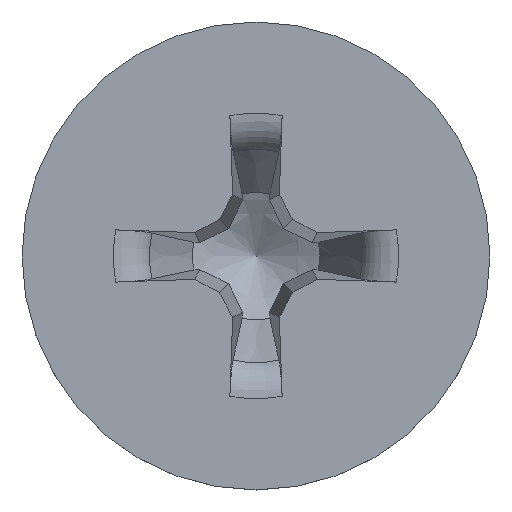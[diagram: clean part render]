
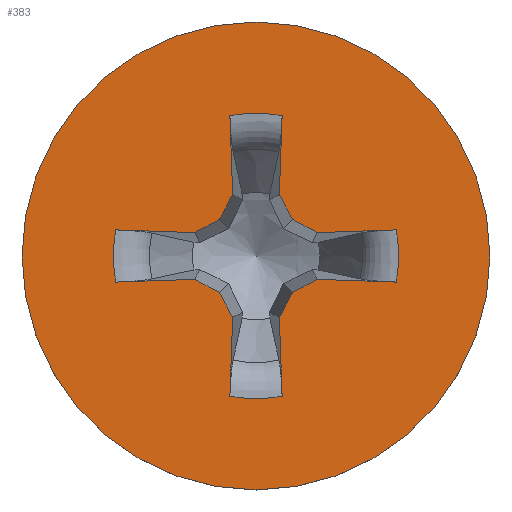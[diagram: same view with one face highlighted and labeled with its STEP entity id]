
A CAD part, top view. The second image highlights one B-rep face of the part: STEP entity #383.
In plain terms, the highlighted planar face has unit normal (0, 0, 1).
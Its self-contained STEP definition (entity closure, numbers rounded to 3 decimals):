
#120=LINE('',#4226,#228);
#121=LINE('',#4231,#229);
#122=LINE('',#4233,#230);
#123=LINE('',#4235,#231);
#124=LINE('',#4237,#232);
#125=LINE('',#4241,#233);
#126=LINE('',#4243,#234);
#127=LINE('',#4245,#235);
#128=LINE('',#4247,#236);
#129=LINE('',#4251,#237);
#130=LINE('',#4253,#238);
#131=LINE('',#4255,#239);
#132=LINE('',#4257,#240);
#133=LINE('',#4261,#241);
#134=LINE('',#4263,#242);
#135=LINE('',#4265,#243);
#228=VECTOR('',#1993,1.);
#229=VECTOR('',#1996,1.);
#230=VECTOR('',#1997,1.);
#231=VECTOR('',#1998,1.);
#232=VECTOR('',#1999,1.);
#233=VECTOR('',#2002,1.);
#234=VECTOR('',#2003,1.);
#235=VECTOR('',#2004,1.);
#236=VECTOR('',#2005,1.);
#237=VECTOR('',#2008,1.);
#238=VECTOR('',#2009,1.);
#239=VECTOR('',#2010,1.);
#240=VECTOR('',#2011,1.);
#241=VECTOR('',#2014,1.);
#242=VECTOR('',#2015,1.);
#243=VECTOR('',#2016,1.);
#337=PLANE('',#1928);
#364=FACE_BOUND('',#626,.T.);
#365=FACE_BOUND('',#627,.T.);
#383=ADVANCED_FACE('',(#364,#365),#337,.F.);
#626=EDGE_LOOP('',(#951,#952,#953,#954,#955,#956,#957,#958,#959,#960,#961,
#962,#963,#964,#965,#966,#967,#968,#969,#970));
#627=EDGE_LOOP('',(#971));
#951=ORIENTED_EDGE('',*,*,#1666,.F.);
#952=ORIENTED_EDGE('',*,*,#1667,.T.);
#953=ORIENTED_EDGE('',*,*,#1668,.F.);
#954=ORIENTED_EDGE('',*,*,#1669,.F.);
#955=ORIENTED_EDGE('',*,*,#1670,.F.);
#956=ORIENTED_EDGE('',*,*,#1671,.F.);
#957=ORIENTED_EDGE('',*,*,#1672,.T.);
#958=ORIENTED_EDGE('',*,*,#1673,.F.);
#959=ORIENTED_EDGE('',*,*,#1674,.F.);
#960=ORIENTED_EDGE('',*,*,#1675,.F.);
#961=ORIENTED_EDGE('',*,*,#1676,.F.);
#962=ORIENTED_EDGE('',*,*,#1677,.T.);
#963=ORIENTED_EDGE('',*,*,#1678,.F.);
#964=ORIENTED_EDGE('',*,*,#1679,.F.);
#965=ORIENTED_EDGE('',*,*,#1680,.F.);
#966=ORIENTED_EDGE('',*,*,#1681,.F.);
#967=ORIENTED_EDGE('',*,*,#1682,.T.);
#968=ORIENTED_EDGE('',*,*,#1683,.F.);
#969=ORIENTED_EDGE('',*,*,#1684,.F.);
#970=ORIENTED_EDGE('',*,*,#1685,.F.);
#971=ORIENTED_EDGE('',*,*,#1686,.F.);
#1496=VERTEX_POINT('',#4227);
#1497=VERTEX_POINT('',#4228);
#1498=VERTEX_POINT('',#4230);
#1499=VERTEX_POINT('',#4232);
#1500=VERTEX_POINT('',#4234);
#1501=VERTEX_POINT('',#4236);
#1502=VERTEX_POINT('',#4238);
#1503=VERTEX_POINT('',#4240);
#1504=VERTEX_POINT('',#4242);
#1505=VERTEX_POINT('',#4244);
#1506=VERTEX_POINT('',#4246);
#1507=VERTEX_POINT('',#4248);
#1508=VERTEX_POINT('',#4250);
#1509=VERTEX_POINT('',#4252);
#1510=VERTEX_POINT('',#4254);
#1511=VERTEX_POINT('',#4256);
#1512=VERTEX_POINT('',#4258);
#1513=VERTEX_POINT('',#4260);
#1514=VERTEX_POINT('',#4262);
#1515=VERTEX_POINT('',#4264);
#1516=VERTEX_POINT('',#4267);
#1666=EDGE_CURVE('',#1496,#1497,#120,.T.);
#1667=EDGE_CURVE('',#1496,#1498,#1895,.T.);
#1668=EDGE_CURVE('',#1499,#1498,#121,.T.);
#1669=EDGE_CURVE('',#1500,#1499,#122,.T.);
#1670=EDGE_CURVE('',#1501,#1500,#123,.T.);
#1671=EDGE_CURVE('',#1502,#1501,#124,.T.);
#1672=EDGE_CURVE('',#1502,#1503,#1896,.T.);
#1673=EDGE_CURVE('',#1504,#1503,#125,.T.);
#1674=EDGE_CURVE('',#1505,#1504,#126,.T.);
#1675=EDGE_CURVE('',#1506,#1505,#127,.T.);
#1676=EDGE_CURVE('',#1507,#1506,#128,.T.);
#1677=EDGE_CURVE('',#1507,#1508,#1897,.T.);
#1678=EDGE_CURVE('',#1509,#1508,#129,.T.);
#1679=EDGE_CURVE('',#1510,#1509,#130,.T.);
#1680=EDGE_CURVE('',#1511,#1510,#131,.T.);
#1681=EDGE_CURVE('',#1512,#1511,#132,.T.);
#1682=EDGE_CURVE('',#1512,#1513,#1898,.T.);
#1683=EDGE_CURVE('',#1514,#1513,#133,.T.);
#1684=EDGE_CURVE('',#1515,#1514,#134,.T.);
#1685=EDGE_CURVE('',#1497,#1515,#135,.T.);
#1686=EDGE_CURVE('',#1516,#1516,#1899,.T.);
#1895=CIRCLE('',#1923,4.271);
#1896=CIRCLE('',#1924,4.271);
#1897=CIRCLE('',#1925,4.271);
#1898=CIRCLE('',#1926,4.271);
#1899=CIRCLE('',#1927,7.);
#1923=AXIS2_PLACEMENT_3D('',#4229,#1994,#1995);
#1924=AXIS2_PLACEMENT_3D('',#4239,#2000,#2001);
#1925=AXIS2_PLACEMENT_3D('',#4249,#2006,#2007);
#1926=AXIS2_PLACEMENT_3D('',#4259,#2012,#2013);
#1927=AXIS2_PLACEMENT_3D('',#4266,#2017,#2018);
#1928=AXIS2_PLACEMENT_3D('',#4268,#2019,#2020);
#1993=DIRECTION('',(-0.999,-0.035,0.));
#1994=DIRECTION('',(0.,0.,-1.));
#1995=DIRECTION('',(-1.,0.,0.));
#1996=DIRECTION('',(0.999,-0.035,0.));
#1997=DIRECTION('',(0.883,0.469,0.));
#1998=DIRECTION('',(0.469,0.883,0.));
#1999=DIRECTION('',(-0.035,0.999,0.));
#2000=DIRECTION('',(0.,0.,-1.));
#2001=DIRECTION('',(-1.,0.,0.));
#2002=DIRECTION('',(-0.035,-0.999,0.));
#2003=DIRECTION('',(0.469,-0.883,0.));
#2004=DIRECTION('',(0.883,-0.469,0.));
#2005=DIRECTION('',(0.999,0.035,0.));
#2006=DIRECTION('',(0.,0.,-1.));
#2007=DIRECTION('',(-1.,0.,0.));
#2008=DIRECTION('',(-0.999,0.035,0.));
#2009=DIRECTION('',(-0.883,-0.469,0.));
#2010=DIRECTION('',(-0.469,-0.883,0.));
#2011=DIRECTION('',(0.035,-0.999,0.));
#2012=DIRECTION('',(0.,0.,-1.));
#2013=DIRECTION('',(-1.,0.,0.));
#2014=DIRECTION('',(0.035,0.999,0.));
#2015=DIRECTION('',(-0.469,0.883,0.));
#2016=DIRECTION('',(-0.883,0.469,0.));
#2017=DIRECTION('',(0.,0.,-1.));
#2018=DIRECTION('',(-1.,0.,0.));
#2019=DIRECTION('',(0.,0.,-1.));
#2020=DIRECTION('',(-1.,0.,0.));
#4226=CARTESIAN_POINT('',(-0.022,0.634,5.16));
#4227=CARTESIAN_POINT('',(4.199,0.781,5.16));
#4228=CARTESIAN_POINT('',(1.837,0.699,5.16));
#4229=CARTESIAN_POINT('',(0.,0.,5.16));
#4230=CARTESIAN_POINT('',(4.199,-0.781,5.16));
#4231=CARTESIAN_POINT('',(-0.022,-0.634,5.16));
#4232=CARTESIAN_POINT('',(1.837,-0.699,5.16));
#4233=CARTESIAN_POINT('',(0.695,-1.306,5.16));
#4234=CARTESIAN_POINT('',(1.094,-1.094,5.16));
#4235=CARTESIAN_POINT('',(1.306,-0.695,5.16));
#4236=CARTESIAN_POINT('',(0.699,-1.837,5.16));
#4237=CARTESIAN_POINT('',(0.634,0.022,5.16));
#4238=CARTESIAN_POINT('',(0.781,-4.199,5.16));
#4239=CARTESIAN_POINT('',(0.,0.,5.16));
#4240=CARTESIAN_POINT('',(-0.781,-4.199,5.16));
#4241=CARTESIAN_POINT('',(-0.634,0.022,5.16));
#4242=CARTESIAN_POINT('',(-0.699,-1.837,5.16));
#4243=CARTESIAN_POINT('',(-1.306,-0.695,5.16));
#4244=CARTESIAN_POINT('',(-1.094,-1.094,5.16));
#4245=CARTESIAN_POINT('',(-0.695,-1.306,5.16));
#4246=CARTESIAN_POINT('',(-1.837,-0.699,5.16));
#4247=CARTESIAN_POINT('',(0.022,-0.634,5.16));
#4248=CARTESIAN_POINT('',(-4.199,-0.781,5.16));
#4249=CARTESIAN_POINT('',(0.,0.,5.16));
#4250=CARTESIAN_POINT('',(-4.199,0.781,5.16));
#4251=CARTESIAN_POINT('',(0.022,0.634,5.16));
#4252=CARTESIAN_POINT('',(-1.837,0.699,5.16));
#4253=CARTESIAN_POINT('',(-0.695,1.306,5.16));
#4254=CARTESIAN_POINT('',(-1.094,1.094,5.16));
#4255=CARTESIAN_POINT('',(-1.306,0.695,5.16));
#4256=CARTESIAN_POINT('',(-0.699,1.837,5.16));
#4257=CARTESIAN_POINT('',(-0.634,-0.022,5.16));
#4258=CARTESIAN_POINT('',(-0.781,4.199,5.16));
#4259=CARTESIAN_POINT('',(0.,0.,5.16));
#4260=CARTESIAN_POINT('',(0.781,4.199,5.16));
#4261=CARTESIAN_POINT('',(0.634,-0.022,5.16));
#4262=CARTESIAN_POINT('',(0.699,1.837,5.16));
#4263=CARTESIAN_POINT('',(1.306,0.695,5.16));
#4264=CARTESIAN_POINT('',(1.094,1.094,5.16));
#4265=CARTESIAN_POINT('',(0.695,1.306,5.16));
#4266=CARTESIAN_POINT('',(0.,0.,5.16));
#4267=CARTESIAN_POINT('',(-7.,0.,5.16));
#4268=CARTESIAN_POINT('',(0.,0.,5.16));
